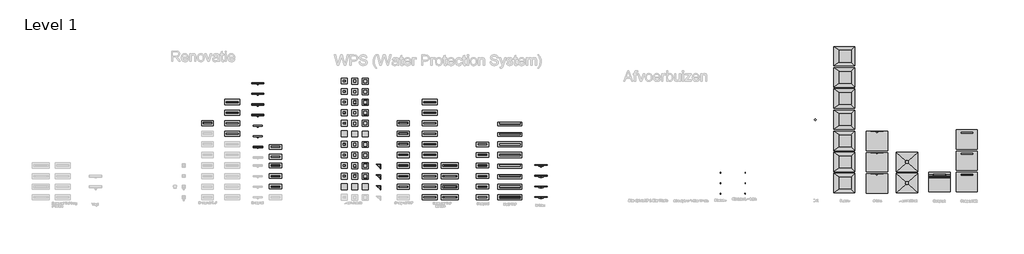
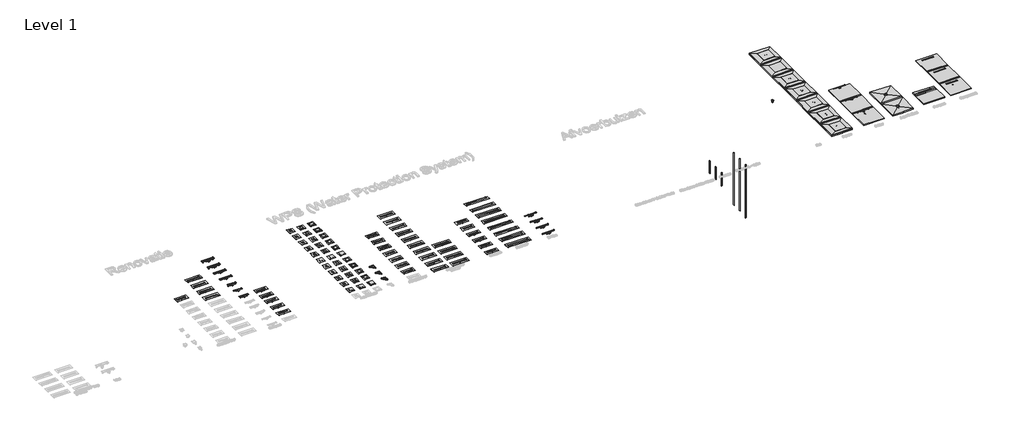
# One storey, part 6 of 23: 120 sanitary terminals, 8 coverings.
"""IFC4 building model written with IfcOpenShell, lengths in millimetres."""

from ifc_helpers import new_model, si_unit, origin, place, context, project, spatial, transform, mapped, element, save
from components import covering_949c216e, covering_52c8488e, sanitary_terminal_5b34698b, sanitary_terminal_c62dae5d, sanitary_terminal_9a77729b, sanitary_terminal_87b3114c, sanitary_terminal_e6825e24, sanitary_terminal_7cc5d28f, sanitary_terminal_fcf2dfa3, sanitary_terminal_6ee30efb, sanitary_terminal_1113593c, sanitary_terminal_65ee39c2, sanitary_terminal_e4e503c8, sanitary_terminal_38fbd002, sanitary_terminal_ca8cf7d3, sanitary_terminal_dbedebaa, sanitary_terminal_98deaa17, sanitary_terminal_0f77349a, sanitary_terminal_50c217ad, sanitary_terminal_e52f65bd, sanitary_terminal_b1b542f0, sanitary_terminal_1a364380, sanitary_terminal_83d6f62a, sanitary_terminal_4a5be464, sanitary_terminal_dddee02a, sanitary_terminal_49c4bee3, sanitary_terminal_3b9aff7f, sanitary_terminal_8a521ea7, black_glass_10x10_94a9755f, black_glass_15x15_4ec12fde, black_glass_20x20_2d4f7b62, compact_89b39318, compact_ff_9ca3e479, compact_ff_39878ad4, compact_ff_16e5568f, compact_ff_ca326670, compact_ff_tile_2c53a190, compact_ff_tile_d9a49791, compact_flange_697ba35e, compact_m2_07d69076, compact_taf_aa2868d5, compact_taf_a320cd3e, compact_taf_2342890d, compact_taf_wall_cdf960c3, compact_taf_wall_d19b2d83, compact_taf_wall_0f2e0b1c, compact_taf_wall_d03a32f8, compact_tile_2c210a84, compact_tile_8fcec66e, compact_wall_94ad205f, compact_wall_42add6d5, compact_wall_7a272a64, compact_wall_831ec387, m_line_c0a41354, m_line_9a3da5f7, m2_trap_body_7347115e, m2_trap_body_e95e259b, multi_taf_wall_horizontal_outlet_high_50mm_fefc41ae, multi_taf_wall_horizontal_outlet_low_40mm_08ca72b8, multi_taf_horizontal_outlet_low_40mm_1422f05b, multi_taf_horizontal_outlet_low_40mm_2f109a31, s_line_e55ddfc2, slim_tube_321f6302, tile_10x10_495e2d9a, tile_10x10_58bf98e1, tile_15x15_625d1f21, tile_15x15_8973f844, tile_20x20_1db265bf, tile_20x20_2fca3c0a

model = new_model("IFC4")

# Units and contexts
model_context = context("Model", 3, world=origin())
ifc_project = project(units=[si_unit("LENGTHUNIT", "METRE", prefix="MILLI")], contexts=[model_context])

# Site, building, storey
site = spatial("IfcSite", under=ifc_project)
building = spatial("IfcBuilding", under=site)
storey = spatial("IfcBuildingStorey", under=building, Name="Level 1", Elevation=0.0)

# Coverings
placement = place(None, origin())
covering_shape = covering_949c216e(model_context)
element("IfcCovering", 1, ObjectType="Z_DO_NOT_USE_NLRS_PF_52_UN_Extension Set_Easydrain : NLRS_PLF_52_UN_Easy Drain verlengset_Easydrain", at=placement, inside=storey, context=model_context, shape_type="MappedRepresentation", body=[
    mapped(covering_shape, transform((111217.5, 8300.0, 0.0), x_axis=(1.0, 0.0, 0.0), y_axis=(0.0, 1.0, 0.0), z_axis=(0.0, 0.0, 1.0))),
])
element("IfcCovering", 2, ObjectType="Z_DO_NOT_USE_NLRS_PF_52_UN_Extension Set_Easydrain : NLRS_PLF_52_UN_Easy Drain verlengset_Easydrain", at=placement, inside=storey, context=model_context, shape_type="MappedRepresentation", body=[
    mapped(covering_shape, transform((111217.5, 8900.0, 0.0), x_axis=(1.0, 0.0, 0.0), y_axis=(0.0, 1.0, 0.0), z_axis=(0.0, 0.0, 1.0))),
])
element("IfcCovering", 3, ObjectType="Z_DO_NOT_USE_NLRS_PF_52_UN_Extension Set_Easydrain : NLRS_PLF_52_UN_Easy Drain verlengset_Easydrain", at=placement, inside=storey, context=model_context, shape_type="MappedRepresentation", body=[
    mapped(covering_shape, transform((111217.5, 9500.0, 0.0), x_axis=(1.0, 0.0, 0.0), y_axis=(0.0, 1.0, 0.0), z_axis=(0.0, 0.0, 1.0))),
])
covering_2_shape = covering_52c8488e(model_context)
element("IfcCovering", 4, ObjectType="Z_DO_NOT_USE_NLRS_PF_52_UN_Extension Set_Easydrain : NLRS_PLF_52_UN_Easy Drain verlengset_Easydrain", at=placement, inside=storey, context=model_context, shape_type="MappedRepresentation", body=[
    mapped(covering_2_shape, transform((111217.5, 10100.0, 0.0), x_axis=(1.0, 0.0, 0.0), y_axis=(0.0, 1.0, 0.0), z_axis=(0.0, 0.0, 1.0))),
])
element("IfcCovering", 5, ObjectType="Z_DO_NOT_USE_NLRS_PF_52_UN_Extension Set_Easydrain : NLRS_PLF_52_UN_Easy Drain verlengset_Easydrain", at=placement, inside=storey, context=model_context, shape_type="MappedRepresentation", body=[
    mapped(covering_2_shape, transform((111217.5, 10700.0, 0.0), x_axis=(1.0, 0.0, 0.0), y_axis=(0.0, 1.0, 0.0), z_axis=(0.0, 0.0, 1.0))),
])
element("IfcCovering", 6, ObjectType="Z_DO_NOT_USE_NLRS_PF_52_UN_Extension Set_Easydrain : NLRS_PLF_52_UN_Easy Drain verlengset_Easydrain", at=placement, inside=storey, context=model_context, shape_type="MappedRepresentation", body=[
    mapped(covering_2_shape, transform((111217.5, 11300.0, 0.0), x_axis=(1.0, 0.0, 0.0), y_axis=(0.0, 1.0, 0.0), z_axis=(0.0, 0.0, 1.0))),
])
element("IfcCovering", 7, ObjectType="Z_DO_NOT_USE_NLRS_PF_52_UN_Extension Set_Easydrain : NLRS_PLF_52_UN_Easy Drain verlengset_Easydrain", at=placement, inside=storey, context=model_context, shape_type="MappedRepresentation", body=[
    mapped(covering_2_shape, transform((111217.5, 11900.0, 0.0), x_axis=(1.0, 0.0, 0.0), y_axis=(0.0, 1.0, 0.0), z_axis=(0.0, 0.0, 1.0))),
])
element("IfcCovering", 8, ObjectType="Z_DO_NOT_USE_NLRS_PF_52_UN_Extension Set_Easydrain : NLRS_PLF_52_UN_Easy Drain verlengset_Easydrain", at=placement, inside=storey, context=model_context, shape_type="MappedRepresentation", body=[
    mapped(covering_2_shape, transform((100117.5, 11900.0, 0.0), x_axis=(1.0, 0.0, 0.0), y_axis=(0.0, 1.0, 0.0), z_axis=(0.0, 0.0, 1.0))),
])

# Sanitary terminals
sanitary_terminal_shape = sanitary_terminal_5b34698b(model_context)
element("IfcSanitaryTerminal", 9, ObjectType="NLRS_PF_52_UN_Aqua Jewels Delta_in_uitloop_Easydrain : Aqua Jewels Delta zijuitloop hoog 50mm, zij-ingang 40mm", at=placement, inside=storey, context=model_context, shape_type="MappedRepresentation", body=[
    mapped(sanitary_terminal_shape, transform((110100.0, 8900.0, 0.0), x_axis=(1.0, 0.0, 0.0), y_axis=(0.0, 1.0, 0.0), z_axis=(0.0, 0.0, 1.0))),
])
sanitary_terminal_2_shape = sanitary_terminal_c62dae5d(model_context)
element("IfcSanitaryTerminal", 10, ObjectType="NLRS_PF_52_UN_Compact TAF Modulo Design_Easydrain : Compact TAF Modulo Design Z2", at=placement, inside=storey, context=model_context, shape_type="MappedRepresentation", body=[
    mapped(sanitary_terminal_2_shape, transform((113950.0, 7700.0, 0.0), x_axis=(1.0, 0.0, 0.0), y_axis=(0.0, 1.0, 0.0), z_axis=(0.0, 0.0, 1.0))),
])
sanitary_terminal_3_shape = sanitary_terminal_9a77729b(model_context)
element("IfcSanitaryTerminal", 11, ObjectType="NLRS_PF_52_UN_Compact TAF Modulo Design_Easydrain : Compact TAF Modulo Design Z4", at=placement, inside=storey, context=model_context, shape_type="MappedRepresentation", body=[
    mapped(sanitary_terminal_3_shape, transform((113950.0, 8300.0, 0.0), x_axis=(1.0, 0.0, 0.0), y_axis=(0.0, 1.0, 0.0), z_axis=(0.0, 0.0, 1.0))),
])
sanitary_terminal_4_shape = sanitary_terminal_87b3114c(model_context)
element("IfcSanitaryTerminal", 12, ObjectType="NLRS_PF_52_UN_Compact TAF Modulo_Easydrain : Compact TAF Modulo Classic", at=placement, inside=storey, context=model_context, shape_type="MappedRepresentation", body=[
    mapped(sanitary_terminal_4_shape, transform((112850.0, 7700.0, 0.0), x_axis=(1.0, 0.0, 0.0), y_axis=(0.0, 1.0, 0.0), z_axis=(0.0, 0.0, 1.0))),
])
element("IfcSanitaryTerminal", 13, ObjectType="NLRS_PF_52_UN_Compact TAF Modulo_Easydrain : Compact TAF Modulo Zero+ geborsteld RVS", at=placement, inside=storey, context=model_context, shape_type="MappedRepresentation", body=[
    mapped(sanitary_terminal_4_shape, transform((112850.0, 9500.0, 0.0), x_axis=(1.0, 0.0, 0.0), y_axis=(0.0, 1.0, 0.0), z_axis=(0.0, 0.0, 1.0))),
])
element("IfcSanitaryTerminal", 14, ObjectType="NLRS_PF_52_UN_Compact TAF Modulo_Easydrain : Compact TAF Modulo Zero+ verchroomd RVS", at=placement, inside=storey, context=model_context, shape_type="MappedRepresentation", body=[
    mapped(sanitary_terminal_4_shape, transform((112850.0, 10100.0, 0.0), x_axis=(1.0, 0.0, 0.0), y_axis=(0.0, 1.0, 0.0), z_axis=(0.0, 0.0, 1.0))),
])
sanitary_terminal_5_shape = sanitary_terminal_e6825e24(model_context)
element("IfcSanitaryTerminal", 15, ObjectType="NLRS_PF_52_UN_Compact TAF Modulo_Easydrain : Compact TAF Modulo Glas zwart glans", at=placement, inside=storey, context=model_context, shape_type="MappedRepresentation", body=[
    mapped(sanitary_terminal_5_shape, transform((112850.0, 8900.0, 0.0), x_axis=(1.0, 0.0, 0.0), y_axis=(0.0, 1.0, 0.0), z_axis=(0.0, 0.0, 1.0))),
])
element("IfcSanitaryTerminal", 16, ObjectType="NLRS_PF_52_UN_Compact TAF Modulo_Easydrain : Compact TAF Modulo Glas wit glans", at=placement, inside=storey, context=model_context, shape_type="MappedRepresentation", body=[
    mapped(sanitary_terminal_5_shape, transform((112850.0, 8300.0, 0.0), x_axis=(1.0, 0.0, 0.0), y_axis=(0.0, 1.0, 0.0), z_axis=(0.0, 0.0, 1.0))),
])
sanitary_terminal_6_shape = sanitary_terminal_7cc5d28f(model_context)
element("IfcSanitaryTerminal", 17, ObjectType="NLRS_PF_52_UN_Multi TAF in_uitloop_Easydrain : Multi TAF zijuitloop hoog 50mm, zij-ingang 40mm", at=placement, inside=storey, context=model_context, shape_type="MappedRepresentation", body=[
    mapped(sanitary_terminal_6_shape, transform((117150.0, 10100.0, 0.0), x_axis=(1.0, 0.0, 0.0), y_axis=(0.0, 1.0, 0.0), z_axis=(0.0, 0.0, 1.0))),
])
sanitary_terminal_7_shape = sanitary_terminal_fcf2dfa3(model_context)
element("IfcSanitaryTerminal", 18, ObjectType="NLRS_PF_52_UN_Multi TAF Wall in_uitloop_Easydrain : Multi TAF Wall zijuitloop hoog 50mm, zij-ingang 40mm", at=placement, inside=storey, context=model_context, shape_type="MappedRepresentation", body=[
    mapped(sanitary_terminal_7_shape, transform((117150.0, 11300.0, 0.0), x_axis=(1.0, 0.0, 0.0), y_axis=(0.0, 1.0, 0.0), z_axis=(0.0, 0.0, 1.0))),
])
sanitary_terminal_8_shape = sanitary_terminal_6ee30efb(model_context)
element("IfcSanitaryTerminal", 19, ObjectType="NLRS_PF_52_UN_Showerboard Aqua Brilliant_Easydrain : Aqua Brilliant onderuitloop 50mm", at=placement, inside=storey, context=model_context, shape_type="MappedRepresentation", body=[
    mapped(sanitary_terminal_8_shape, transform((140027.0859504, 9700.0, 0.0), x_axis=(1.0, 0.0, 0.0), y_axis=(0.0, 1.0, 0.0), z_axis=(0.0, 0.0, 1.0))),
])
sanitary_terminal_9_shape = sanitary_terminal_1113593c(model_context)
element("IfcSanitaryTerminal", 20, ObjectType="NLRS_PF_52_UN_Showerboard Aqua Brilliant_Easydrain : Aqua Brilliant zijuitloop laag 50mm", at=placement, inside=storey, context=model_context, shape_type="MappedRepresentation", body=[
    mapped(sanitary_terminal_9_shape, transform((140027.0859504, 8500.0, 0.0), x_axis=(1.0, 0.0, 0.0), y_axis=(0.0, 1.0, 0.0), z_axis=(0.0, 0.0, 1.0))),
])
sanitary_terminal_10_shape = sanitary_terminal_65ee39c2(model_context)
element("IfcSanitaryTerminal", 21, ObjectType="NLRS_PF_52_UN_Showerboard Compact M2_Easydrain : Compact M2 met M2 sifonhuis onderuitloop", at=placement, inside=storey, context=model_context, shape_type="MappedRepresentation", body=[
    mapped(sanitary_terminal_10_shape, transform((143427.0859504, 11382.7, 0.0), x_axis=(1.0, 0.0, 0.0), y_axis=(0.0, 1.0, 0.0), z_axis=(0.0, 0.0, 1.0))),
])
element("IfcSanitaryTerminal", 22, ObjectType="NLRS_PF_52_UN_Showerboard Compact M2_Easydrain : Compact M2 met M2 ondiep sifonhuis", at=placement, inside=storey, context=model_context, shape_type="MappedRepresentation", body=[
    mapped(sanitary_terminal_10_shape, transform((143427.0859504, 10182.7, 0.0), x_axis=(1.0, 0.0, 0.0), y_axis=(0.0, 1.0, 0.0), z_axis=(0.0, 0.0, 1.0))),
])
sanitary_terminal_11_shape = sanitary_terminal_e4e503c8(model_context)
element("IfcSanitaryTerminal", 23, ObjectType="NLRS_PF_52_UN_Showerboard S-Line_Easydrain : S-Line met M2 sifonhuis onderuitloop", at=placement, inside=storey, context=model_context, shape_type="MappedRepresentation", body=[
    mapped(sanitary_terminal_11_shape, transform((138327.0859504, 11400.0, 0.0), x_axis=(1.0, 0.0, 0.0), y_axis=(0.0, 1.0, 0.0), z_axis=(0.0, 0.0, 1.0))),
])
element("IfcSanitaryTerminal", 24, ObjectType="NLRS_PF_52_UN_Showerboard S-Line_Easydrain : S-Line met M2 ondiep sifonhuis", at=placement, inside=storey, context=model_context, shape_type="MappedRepresentation", body=[
    mapped(sanitary_terminal_11_shape, transform((138327.0859504, 10200.0, 0.0), x_axis=(1.0, 0.0, 0.0), y_axis=(0.0, 1.0, 0.0), z_axis=(0.0, 0.0, 1.0))),
])
sanitary_terminal_12_shape = sanitary_terminal_38fbd002(model_context)
element("IfcSanitaryTerminal", 25, ObjectType="NLRS_PF_52_UN_Showerboard SQUARE_in_uitloop_Easydrain : Square zijuitloop hoog 50mm, zij-ingang 40mm", at=placement, inside=storey, context=model_context, shape_type="MappedRepresentation", body=[
    mapped(sanitary_terminal_12_shape, transform((136527.0859504, 13300.0, 0.0), x_axis=(1.0, 0.0, 0.0), y_axis=(0.0, 1.0, 0.0), z_axis=(0.0, 0.0, 1.0))),
])
element("IfcSanitaryTerminal", 26, ObjectType="NLRS_PF_52_UN_Showerboard SQUARE_in_uitloop_Easydrain : Square onderuitloop 50mm, zij-ingang 40mm", at=placement, inside=storey, context=model_context, shape_type="MappedRepresentation", body=[
    mapped(sanitary_terminal_12_shape, transform((136527.0859504, 14500.0, 0.0), x_axis=(1.0, 0.0, 0.0), y_axis=(0.0, 1.0, 0.0), z_axis=(0.0, 0.0, 1.0))),
])
element("IfcSanitaryTerminal", 27, ObjectType="NLRS_PF_52_UN_Showerboard SQUARE_in_uitloop_Easydrain : Square onderuitloop 50mm, zij-ingang 50mm", at=placement, inside=storey, context=model_context, shape_type="MappedRepresentation", body=[
    mapped(sanitary_terminal_12_shape, transform((136527.0859504, 15700.0, 0.0), x_axis=(1.0, 0.0, 0.0), y_axis=(0.0, 1.0, 0.0), z_axis=(0.0, 0.0, 1.0))),
])
sanitary_terminal_13_shape = sanitary_terminal_ca8cf7d3(model_context)
element("IfcSanitaryTerminal", 28, ObjectType="NLRS_PF_52_UN_Showerboard SQUARE_uitloop_Easydrain : Square Zijuitloop laag 50 mm", at=placement, inside=storey, context=model_context, shape_type="MappedRepresentation", body=[
    mapped(sanitary_terminal_13_shape, transform((136527.0859504, 9700.0, 0.0), x_axis=(1.0, 0.0, 0.0), y_axis=(0.0, 1.0, 0.0), z_axis=(0.0, 0.0, 1.0))),
])
sanitary_terminal_14_shape = sanitary_terminal_dbedebaa(model_context)
element("IfcSanitaryTerminal", 29, ObjectType="NLRS_PF_52_UN_Showerboard SQUARE_uitloop_Easydrain : Square Zijuitloop laag 40 mm", at=placement, inside=storey, context=model_context, shape_type="MappedRepresentation", body=[
    mapped(sanitary_terminal_14_shape, transform((136527.0859504, 8500.0, 0.0), x_axis=(1.0, 0.0, 0.0), y_axis=(0.0, 1.0, 0.0), z_axis=(0.0, 0.0, 1.0))),
])
element("IfcSanitaryTerminal", 30, ObjectType="NLRS_PF_52_UN_Showerboard SQUARE_uitloop_Easydrain : Square Zijuitloop hoog 50 mm", at=placement, inside=storey, context=model_context, shape_type="MappedRepresentation", body=[
    mapped(sanitary_terminal_13_shape, transform((136527.0859504, 10900.0, 0.0), x_axis=(1.0, 0.0, 0.0), y_axis=(0.0, 1.0, 0.0), z_axis=(0.0, 0.0, 1.0))),
])
sanitary_terminal_15_shape = sanitary_terminal_98deaa17(model_context)
element("IfcSanitaryTerminal", 31, ObjectType="NLRS_PF_52_UN_Showerboard SQUARE_uitloop_Easydrain : Square Onderuitloop 50 mm", at=placement, inside=storey, context=model_context, shape_type="MappedRepresentation", body=[
    mapped(sanitary_terminal_15_shape, transform((136527.0859504, 12100.0, 0.0), x_axis=(1.0, 0.0, 0.0), y_axis=(0.0, 1.0, 0.0), z_axis=(0.0, 0.0, 1.0))),
])
sanitary_terminal_16_shape = sanitary_terminal_0f77349a(model_context)
element("IfcSanitaryTerminal", 32, ObjectType="Z_DO_NOT_USE_NLRS_PF_52_UN_Slim Tube drain pipe lengte 3,2m_Easydrain : Slim Tube - lengte 3,2 m", at=placement, inside=storey, context=model_context, shape_type="MappedRepresentation", body=[
    mapped(sanitary_terminal_16_shape, transform((130854.1823151, 7900.0, -33.0), x_axis=(1.0, 0.0, 0.0), y_axis=(0.0, 1.0, 0.0), z_axis=(0.0, 0.0, 1.0))),
])
element("IfcSanitaryTerminal", 33, ObjectType="Z_DO_NOT_USE_NLRS_PF_52_UN_Slim Tube drain pipe lengte 3,2m_Easydrain : Slim Tube - lengte 3,2 m", at=placement, inside=storey, context=model_context, shape_type="MappedRepresentation", body=[
    mapped(sanitary_terminal_16_shape, transform((130854.1823151, 8500.0, -33.0), x_axis=(1.0, 0.0, 0.0), y_axis=(0.0, 1.0, 0.0), z_axis=(0.0, 0.0, 1.0))),
])
element("IfcSanitaryTerminal", 34, ObjectType="Z_DO_NOT_USE_NLRS_PF_52_UN_Slim Tube drain pipe lengte 3,2m_Easydrain : Slim Tube - lengte 3,2 m", at=placement, inside=storey, context=model_context, shape_type="MappedRepresentation", body=[
    mapped(sanitary_terminal_16_shape, transform((130854.1823151, 9100.0, -33.0), x_axis=(1.0, 0.0, 0.0), y_axis=(0.0, 1.0, 0.0), z_axis=(0.0, 0.0, 1.0))),
])
sanitary_terminal_17_shape = sanitary_terminal_50c217ad(model_context)
element("IfcSanitaryTerminal", 35, ObjectType="NLRS_PF_52_UN_Compact TAF Modulo Design_Easydrain : Compact TAF Modulo Design Z2", at=placement, inside=storey, context=model_context, shape_type="MappedRepresentation", body=[
    mapped(sanitary_terminal_17_shape, transform((113950.0, 8900.0, 0.0), x_axis=(1.0, 0.0, 0.0), y_axis=(0.0, 1.0, 0.0), z_axis=(0.0, 0.0, 1.0))),
])
sanitary_terminal_18_shape = sanitary_terminal_e52f65bd(model_context)
element("IfcSanitaryTerminal", 36, ObjectType="NLRS_PF_52_UN_Compact TAF Modulo Design_Easydrain : Compact TAF Modulo Design Z4", at=placement, inside=storey, context=model_context, shape_type="MappedRepresentation", body=[
    mapped(sanitary_terminal_18_shape, transform((113950.0, 9500.0, 0.0), x_axis=(1.0, 0.0, 0.0), y_axis=(0.0, 1.0, 0.0), z_axis=(0.0, 0.0, 1.0))),
])
sanitary_terminal_19_shape = sanitary_terminal_b1b542f0(model_context)
element("IfcSanitaryTerminal", 37, ObjectType="NLRS_PF_52_UN_Compact TAF Modulo_Easydrain : Compact TAF Modulo Classic", at=placement, inside=storey, context=model_context, shape_type="MappedRepresentation", body=[
    mapped(sanitary_terminal_19_shape, transform((112850.0, 10700.0, 0.0), x_axis=(1.0, 0.0, 0.0), y_axis=(0.0, 1.0, 0.0), z_axis=(0.0, 0.0, 1.0))),
])
sanitary_terminal_20_shape = sanitary_terminal_1a364380(model_context)
element("IfcSanitaryTerminal", 38, ObjectType="NLRS_PF_52_UN_Compact TAF Modulo_Easydrain : Compact TAF Modulo Glas wit glans", at=placement, inside=storey, context=model_context, shape_type="MappedRepresentation", body=[
    mapped(sanitary_terminal_20_shape, transform((112850.0, 11300.0, 0.0), x_axis=(1.0, 0.0, 0.0), y_axis=(0.0, 1.0, 0.0), z_axis=(0.0, 0.0, 1.0))),
])
element("IfcSanitaryTerminal", 39, ObjectType="NLRS_PF_52_UN_Compact TAF Modulo_Easydrain : Compact TAF Modulo Glas wit glans", at=placement, inside=storey, context=model_context, shape_type="MappedRepresentation", body=[
    mapped(sanitary_terminal_20_shape, transform((101650.0, 11300.0, 0.0), x_axis=(1.0, 0.0, 0.0), y_axis=(0.0, 1.0, 0.0), z_axis=(0.0, 0.0, 1.0))),
])
element("IfcSanitaryTerminal", 40, ObjectType="NLRS_PF_52_UN_Compact TAF Modulo_Easydrain : Compact TAF Modulo Glas zwart glans", at=placement, inside=storey, context=model_context, shape_type="MappedRepresentation", body=[
    mapped(sanitary_terminal_20_shape, transform((112850.0, 11900.0, 0.0), x_axis=(1.0, 0.0, 0.0), y_axis=(0.0, 1.0, 0.0), z_axis=(0.0, 0.0, 1.0))),
])
element("IfcSanitaryTerminal", 41, ObjectType="NLRS_PF_52_UN_Compact TAF Modulo_Easydrain : Compact TAF Modulo Glas zwart glans", at=placement, inside=storey, context=model_context, shape_type="MappedRepresentation", body=[
    mapped(sanitary_terminal_20_shape, transform((101650.0, 11900.0, 0.0), x_axis=(1.0, 0.0, 0.0), y_axis=(0.0, 1.0, 0.0), z_axis=(0.0, 0.0, 1.0))),
])
element("IfcSanitaryTerminal", 42, ObjectType="NLRS_PF_52_UN_Compact TAF Modulo_Easydrain : Compact TAF Modulo Zero+ geborsteld RVS", at=placement, inside=storey, context=model_context, shape_type="MappedRepresentation", body=[
    mapped(sanitary_terminal_19_shape, transform((112850.0, 12500.0, 0.0), x_axis=(1.0, 0.0, 0.0), y_axis=(0.0, 1.0, 0.0), z_axis=(0.0, 0.0, 1.0))),
])
element("IfcSanitaryTerminal", 43, ObjectType="NLRS_PF_52_UN_Compact TAF Modulo_Easydrain : Compact TAF Modulo Zero+ geborsteld RVS", at=placement, inside=storey, context=model_context, shape_type="MappedRepresentation", body=[
    mapped(sanitary_terminal_19_shape, transform((101650.0, 12500.0, 0.0), x_axis=(1.0, 0.0, 0.0), y_axis=(0.0, 1.0, 0.0), z_axis=(0.0, 0.0, 1.0))),
])
element("IfcSanitaryTerminal", 44, ObjectType="NLRS_PF_52_UN_Compact TAF Modulo_Easydrain : Compact TAF Modulo Zero+ verchroomd RVS", at=placement, inside=storey, context=model_context, shape_type="MappedRepresentation", body=[
    mapped(sanitary_terminal_19_shape, transform((112850.0, 13100.0, 0.0), x_axis=(1.0, 0.0, 0.0), y_axis=(0.0, 1.0, 0.0), z_axis=(0.0, 0.0, 1.0))),
])
element("IfcSanitaryTerminal", 45, ObjectType="NLRS_PF_52_UN_Compact TAF Modulo_Easydrain : Compact TAF Modulo Zero+ verchroomd RVS", at=placement, inside=storey, context=model_context, shape_type="MappedRepresentation", body=[
    mapped(sanitary_terminal_19_shape, transform((101650.0, 13100.0, 0.0), x_axis=(1.0, 0.0, 0.0), y_axis=(0.0, 1.0, 0.0), z_axis=(0.0, 0.0, 1.0))),
])
sanitary_terminal_21_shape = sanitary_terminal_83d6f62a(model_context)
element("IfcSanitaryTerminal", 46, ObjectType="NLRS_PF_52_UN_Multi TAF in_uitloop_Easydrain : Multi TAF zijuitloop hoog 50mm, zij-ingang 40mm", at=placement, inside=storey, context=model_context, shape_type="MappedRepresentation", body=[
    mapped(sanitary_terminal_21_shape, transform((117150.0, 10700.0, 0.0), x_axis=(1.0, 0.0, 0.0), y_axis=(0.0, 1.0, 0.0), z_axis=(0.0, 0.0, 1.0))),
])
sanitary_terminal_22_shape = sanitary_terminal_4a5be464(model_context)
element("IfcSanitaryTerminal", 47, ObjectType="NLRS_PF_52_UN_Multi TAF Wall in_uitloop_Easydrain : Multi TAF Wall zijuitloop hoog 50mm, zij-ingang 40mm", at=placement, inside=storey, context=model_context, shape_type="MappedRepresentation", body=[
    mapped(sanitary_terminal_22_shape, transform((117150.0, 11900.0, 0.0), x_axis=(1.0, 0.0, 0.0), y_axis=(0.0, 1.0, 0.0), z_axis=(0.0, 0.0, 1.0))),
])
sanitary_terminal_23_shape = sanitary_terminal_dddee02a(model_context)
element("IfcSanitaryTerminal", 48, ObjectType="NLRS_PF_52_UN_Aqua Jewels Delta_in_uitloop_Easydrain : Aqua Jewels Delta zijuitloop hoog 50mm, zij-ingang 40mm", at=placement, inside=storey, context=model_context, shape_type="MappedRepresentation", body=[
    mapped(sanitary_terminal_23_shape, transform((110100.0, 9500.0, 0.0), x_axis=(1.0, 0.0, 0.0), y_axis=(0.0, 1.0, 0.0), z_axis=(0.0, 0.0, 1.0))),
])
element("IfcSanitaryTerminal", 49, ObjectType="NLRS_PF_52_UN_Aqua Jewels Delta_uitloop_Easydrain : Aqua Jewels Delta horizontal outlet low 40mm", at=placement, inside=storey, context=model_context, shape_type="MappedRepresentation", body=[
    mapped(sanitary_terminal_23_shape, transform((110100.0, 8300.0, 0.0), x_axis=(1.0, 0.0, 0.0), y_axis=(0.0, 1.0, 0.0), z_axis=(0.0, 0.0, 1.0))),
])
sanitary_terminal_24_shape = sanitary_terminal_49c4bee3(model_context)
element("IfcSanitaryTerminal", 50, ObjectType="Z_DO_NOT_USE_NLRS_PF_52_UN_Multi sifon uitloop_Easydrain : onderuitloop 50mm", at=placement, inside=storey, context=model_context, shape_type="MappedRepresentation", body=[
    mapped(sanitary_terminal_24_shape, transform((134827.0859504, 12100.0, -9.0), x_axis=(1.0, 0.0, 0.0), y_axis=(0.0, 1.0, 0.0), z_axis=(0.0, 0.0, 1.0))),
])
element("IfcSanitaryTerminal", 51, ObjectType="Z_DO_NOT_USE_NLRS_PF_52_UN_Multi sifon uitloop_Easydrain : onderuitloop 50mm", at=placement, inside=storey, context=model_context, shape_type="MappedRepresentation", body=[
    mapped(sanitary_terminal_24_shape, transform((136527.0859504, 12100.0, -9.0), x_axis=(1.0, 0.0, 0.0), y_axis=(0.0, 1.0, 0.0), z_axis=(0.0, 0.0, 1.0))),
])
sanitary_terminal_25_shape = sanitary_terminal_3b9aff7f(model_context)
element("IfcSanitaryTerminal", 52, ObjectType="Z_DO_NOT_USE_NLRS_PF_52_UN_Slim Tube outgoing facing down_Easydrain : Slim Tube outgoing facing down", at=placement, inside=storey, context=model_context, shape_type="MappedRepresentation", body=[
    mapped(sanitary_terminal_25_shape, transform((129454.1823151, 7900.0, 0.0), x_axis=(1.0, 0.0, 0.0), y_axis=(0.0, 1.0, 0.0), z_axis=(0.0, 0.0, 1.0))),
])
sanitary_terminal_26_shape = sanitary_terminal_8a521ea7(model_context)
element("IfcSanitaryTerminal", 53, ObjectType="Z_DO_NOT_USE_NLRS_PF_52_UN_Slim Tube outgoing facing down_Easydrain : Slim Tube outgoing facing down", at=placement, inside=storey, context=model_context, shape_type="MappedRepresentation", body=[
    mapped(sanitary_terminal_26_shape, transform((130854.1823151, 7900.0, 0.0), x_axis=(1.0, 0.0, 0.0), y_axis=(0.0, 1.0, 0.0), z_axis=(0.0, 0.0, 1.0))),
])
black_glass_10x10_shape = black_glass_10x10_94a9755f(model_context)
element("IfcSanitaryTerminal", 54, ObjectType="Z_DO_NOT_USE_NLRS_PF_52_UN_Aqua Jewels Quattro Complete_Easydrain : Black Glass 10x10", at=placement, inside=storey, context=model_context, shape_type="MappedRepresentation", body=[
    mapped(black_glass_10x10_shape, transform((108100.0, 8900.0, 0.0), x_axis=(1.0, 0.0, 0.0), y_axis=(0.0, 1.0, 0.0), z_axis=(0.0, 0.0, 1.0))),
])
element("IfcSanitaryTerminal", 55, ObjectType="Z_DO_NOT_USE_NLRS_PF_52_UN_Aqua Jewels Quattro Complete_Easydrain : Black Glass 10x10", at=placement, inside=storey, context=model_context, shape_type="MappedRepresentation", body=[
    mapped(black_glass_10x10_shape, transform((108100.0, 11900.0, 0.0), x_axis=(1.0, 0.0, 0.0), y_axis=(0.0, 1.0, 0.0), z_axis=(0.0, 0.0, 1.0))),
])
black_glass_15x15_shape = black_glass_15x15_4ec12fde(model_context)
element("IfcSanitaryTerminal", 56, ObjectType="Z_DO_NOT_USE_NLRS_PF_52_UN_Aqua Jewels Quattro Complete_Easydrain : Black Glass 15x15", at=placement, inside=storey, context=model_context, shape_type="MappedRepresentation", body=[
    mapped(black_glass_15x15_shape, transform((108700.0, 8900.0, 0.0), x_axis=(1.0, 0.0, 0.0), y_axis=(0.0, 1.0, 0.0), z_axis=(0.0, 0.0, 1.0))),
])
element("IfcSanitaryTerminal", 57, ObjectType="Z_DO_NOT_USE_NLRS_PF_52_UN_Aqua Jewels Quattro Complete_Easydrain : Black Glass 15x15", at=placement, inside=storey, context=model_context, shape_type="MappedRepresentation", body=[
    mapped(black_glass_15x15_shape, transform((108700.0, 11900.0, 0.0), x_axis=(1.0, 0.0, 0.0), y_axis=(0.0, 1.0, 0.0), z_axis=(0.0, 0.0, 1.0))),
])
black_glass_20x20_shape = black_glass_20x20_2d4f7b62(model_context)
element("IfcSanitaryTerminal", 58, ObjectType="Z_DO_NOT_USE_NLRS_PF_52_UN_Aqua Jewels Quattro Complete_Easydrain : Black Glass 20x20", at=placement, inside=storey, context=model_context, shape_type="MappedRepresentation", body=[
    mapped(black_glass_20x20_shape, transform((109300.0, 8900.0, 0.0), x_axis=(1.0, 0.0, 0.0), y_axis=(0.0, 1.0, 0.0), z_axis=(0.0, 0.0, 1.0))),
])
element("IfcSanitaryTerminal", 59, ObjectType="Z_DO_NOT_USE_NLRS_PF_52_UN_Aqua Jewels Quattro Complete_Easydrain : Black Glass 20x20", at=placement, inside=storey, context=model_context, shape_type="MappedRepresentation", body=[
    mapped(black_glass_20x20_shape, transform((109300.0, 11900.0, 0.0), x_axis=(1.0, 0.0, 0.0), y_axis=(0.0, 1.0, 0.0), z_axis=(0.0, 0.0, 1.0))),
])
compact_shape = compact_89b39318(model_context)
element("IfcSanitaryTerminal", 60, ObjectType="NLRS_PF_52_UN_Showerboard Compact_Easydrain : Compact", at=placement, inside=storey, context=model_context, shape_type="MappedRepresentation", body=[
    mapped(compact_shape, transform((141791.8319145, 8970.0, 0.0), x_axis=(1.0, 0.0, 0.0), y_axis=(0.0, 1.0, 0.0), z_axis=(0.0, 0.0, 1.0))),
])
compact_ff_shape = compact_ff_9ca3e479(model_context)
element("IfcSanitaryTerminal", 61, ObjectType="NLRS_PF_52_UN_Compact_Easydrain : Compact FF", at=placement, inside=storey, context=model_context, shape_type="MappedRepresentation", body=[
    mapped(compact_ff_shape, transform((115950.0, 7700.0, 0.0), x_axis=(1.0, 0.0, 0.0), y_axis=(0.0, 1.0, 0.0), z_axis=(0.0, 0.0, 1.0))),
])
compact_ff_2_shape = compact_ff_39878ad4(model_context)
element("IfcSanitaryTerminal", 62, ObjectType="NLRS_PF_52_UN_Compact_Easydrain : Compact FF", at=placement, inside=storey, context=model_context, shape_type="MappedRepresentation", body=[
    mapped(compact_ff_2_shape, transform((115950.0, 8300.0, 0.0), x_axis=(1.0, 0.0, 0.0), y_axis=(0.0, 1.0, 0.0), z_axis=(0.0, 0.0, 1.0))),
])
element("IfcSanitaryTerminal", 63, ObjectType="NLRS_PF_52_UN_Compact_Easydrain : Compact FF", at=placement, inside=storey, context=model_context, shape_type="MappedRepresentation", body=[
    mapped(compact_ff_2_shape, transform((104199.785592, 8300.0, 0.0), x_axis=(1.0, 0.0, 0.0), y_axis=(0.0, 1.0, 0.0), z_axis=(0.0, 0.0, 1.0))),
])
compact_ff_3_shape = compact_ff_16e5568f(model_context)
element("IfcSanitaryTerminal", 64, ObjectType="NLRS_PF_52_UN_Compact_Easydrain : Compact FF", at=placement, inside=storey, context=model_context, shape_type="MappedRepresentation", body=[
    mapped(compact_ff_3_shape, transform((115950.0, 8900.0, 0.0), x_axis=(1.0, 0.0, 0.0), y_axis=(0.0, 1.0, 0.0), z_axis=(0.0, 0.0, 1.0))),
])
element("IfcSanitaryTerminal", 65, ObjectType="NLRS_PF_52_UN_Compact_Easydrain : Compact FF", at=placement, inside=storey, context=model_context, shape_type="MappedRepresentation", body=[
    mapped(compact_ff_3_shape, transform((104199.785592, 8900.0, 0.0), x_axis=(1.0, 0.0, 0.0), y_axis=(0.0, 1.0, 0.0), z_axis=(0.0, 0.0, 1.0))),
])
compact_ff_4_shape = compact_ff_ca326670(model_context)
element("IfcSanitaryTerminal", 66, ObjectType="NLRS_PF_52_UN_Compact_Easydrain : Compact FF", at=placement, inside=storey, context=model_context, shape_type="MappedRepresentation", body=[
    mapped(compact_ff_4_shape, transform((115950.0, 9500.0, 0.0), x_axis=(1.0, 0.0, 0.0), y_axis=(0.0, 1.0, 0.0), z_axis=(0.0, 0.0, 1.0))),
])
element("IfcSanitaryTerminal", 67, ObjectType="NLRS_PF_52_UN_Compact_Easydrain : Compact FF", at=placement, inside=storey, context=model_context, shape_type="MappedRepresentation", body=[
    mapped(compact_ff_4_shape, transform((104199.785592, 9500.0, 0.0), x_axis=(1.0, 0.0, 0.0), y_axis=(0.0, 1.0, 0.0), z_axis=(0.0, 0.0, 1.0))),
])
compact_ff_tile_shape = compact_ff_tile_2c53a190(model_context)
element("IfcSanitaryTerminal", 68, ObjectType="NLRS_PF_52_UN_Compact Tile_Easydrain : Compact FF Tile", at=placement, inside=storey, context=model_context, shape_type="MappedRepresentation", body=[
    mapped(compact_ff_tile_shape, transform((115950.0, 10700.0, 0.0), x_axis=(1.0, 0.0, 0.0), y_axis=(0.0, 1.0, 0.0), z_axis=(0.0, 0.0, 1.0))),
])
element("IfcSanitaryTerminal", 69, ObjectType="NLRS_PF_52_UN_Compact Tile_Easydrain : Compact FF Tile", at=placement, inside=storey, context=model_context, shape_type="MappedRepresentation", body=[
    mapped(compact_ff_tile_shape, transform((104199.785592, 10560.0, 0.0), x_axis=(1.0, 0.0, 0.0), y_axis=(0.0, 1.0, 0.0), z_axis=(0.0, 0.0, 1.0))),
])
compact_ff_tile_2_shape = compact_ff_tile_d9a49791(model_context)
element("IfcSanitaryTerminal", 70, ObjectType="NLRS_PF_52_UN_Compact Tile_Easydrain : Compact FF Tile", at=placement, inside=storey, context=model_context, shape_type="MappedRepresentation", body=[
    mapped(compact_ff_tile_2_shape, transform((115950.0, 10100.0, 0.0), x_axis=(1.0, 0.0, 0.0), y_axis=(0.0, 1.0, 0.0), z_axis=(0.0, 0.0, 1.0))),
])
element("IfcSanitaryTerminal", 71, ObjectType="NLRS_PF_52_UN_Compact Tile_Easydrain : Compact FF Tile", at=placement, inside=storey, context=model_context, shape_type="MappedRepresentation", body=[
    mapped(compact_ff_tile_2_shape, transform((104199.785592, 10000.0, 0.0), x_axis=(1.0, 0.0, 0.0), y_axis=(0.0, 1.0, 0.0), z_axis=(0.0, 0.0, 1.0))),
])
compact_flange_shape = compact_flange_697ba35e(model_context)
element("IfcSanitaryTerminal", 72, ObjectType="NLRS_PF_52_UN_Compact_Easydrain : Compact Flange", at=placement, inside=storey, context=model_context, shape_type="MappedRepresentation", body=[
    mapped(compact_flange_shape, transform((103199.785592, 10560.0, 0.0), x_axis=(1.0, 0.0, 0.0), y_axis=(0.0, 1.0, 0.0), z_axis=(0.0, 0.0, 1.0))),
])
compact_m2_shape = compact_m2_07d69076(model_context)
element("IfcSanitaryTerminal", 73, ObjectType="NLRS_PF_52_UN_Showerboard Compact M2_Easydrain : Compact M2", at=placement, inside=storey, context=model_context, shape_type="MappedRepresentation", body=[
    mapped(compact_m2_shape, transform((143427.0859504, 8982.7, 0.0), x_axis=(1.0, 0.0, 0.0), y_axis=(0.0, 1.0, 0.0), z_axis=(0.0, 0.0, 1.0))),
])
compact_taf_shape = compact_taf_aa2868d5(model_context)
element("IfcSanitaryTerminal", 74, ObjectType="NLRS_PF_52_UN_Compact TAF_Easydrain : Compact TAF", at=placement, inside=storey, context=model_context, shape_type="MappedRepresentation", body=[
    mapped(compact_taf_shape, transform((111450.0, 8300.0, 0.0), x_axis=(1.0, 0.0, 0.0), y_axis=(0.0, 1.0, 0.0), z_axis=(0.0, 0.0, 1.0))),
])
compact_taf_2_shape = compact_taf_a320cd3e(model_context)
element("IfcSanitaryTerminal", 75, ObjectType="NLRS_PF_52_UN_Compact TAF_Easydrain : Compact TAF", at=placement, inside=storey, context=model_context, shape_type="MappedRepresentation", body=[
    mapped(compact_taf_2_shape, transform((111450.0, 8900.0, 0.0), x_axis=(1.0, 0.0, 0.0), y_axis=(0.0, 1.0, 0.0), z_axis=(0.0, 0.0, 1.0))),
])
compact_taf_3_shape = compact_taf_2342890d(model_context)
element("IfcSanitaryTerminal", 76, ObjectType="NLRS_PF_52_UN_Compact TAF_Easydrain : Compact TAF", at=placement, inside=storey, context=model_context, shape_type="MappedRepresentation", body=[
    mapped(compact_taf_3_shape, transform((111450.0, 9500.0, 0.0), x_axis=(1.0, 0.0, 0.0), y_axis=(0.0, 1.0, 0.0), z_axis=(0.0, 0.0, 1.0))),
])
compact_taf_wall_shape = compact_taf_wall_cdf960c3(model_context)
element("IfcSanitaryTerminal", 77, ObjectType="NLRS_PF_52_UN_Compact TAF_Easydrain : Compact TAF Wall", at=placement, inside=storey, context=model_context, shape_type="MappedRepresentation", body=[
    mapped(compact_taf_wall_shape, transform((111450.0, 10100.0, 0.0), x_axis=(1.0, 0.0, 0.0), y_axis=(0.0, 1.0, 0.0), z_axis=(0.0, 0.0, 1.0))),
])
compact_taf_wall_2_shape = compact_taf_wall_d19b2d83(model_context)
element("IfcSanitaryTerminal", 78, ObjectType="NLRS_PF_52_UN_Compact TAF_Easydrain : Compact TAF Wall", at=placement, inside=storey, context=model_context, shape_type="MappedRepresentation", body=[
    mapped(compact_taf_wall_2_shape, transform((111450.0, 10700.0, 0.0), x_axis=(1.0, 0.0, 0.0), y_axis=(0.0, 1.0, 0.0), z_axis=(0.0, 0.0, 1.0))),
])
compact_taf_wall_3_shape = compact_taf_wall_0f2e0b1c(model_context)
element("IfcSanitaryTerminal", 79, ObjectType="NLRS_PF_52_UN_Compact TAF_Easydrain : Compact TAF Wall", at=placement, inside=storey, context=model_context, shape_type="MappedRepresentation", body=[
    mapped(compact_taf_wall_3_shape, transform((111450.0, 11300.0, 0.0), x_axis=(1.0, 0.0, 0.0), y_axis=(0.0, 1.0, 0.0), z_axis=(0.0, 0.0, 1.0))),
])
compact_taf_wall_4_shape = compact_taf_wall_d03a32f8(model_context)
element("IfcSanitaryTerminal", 80, ObjectType="NLRS_PF_52_UN_Compact TAF_Easydrain : Compact TAF Wall", at=placement, inside=storey, context=model_context, shape_type="MappedRepresentation", body=[
    mapped(compact_taf_wall_4_shape, transform((111450.0, 11900.0, 0.0), x_axis=(1.0, 0.0, 0.0), y_axis=(0.0, 1.0, 0.0), z_axis=(0.0, 0.0, 1.0))),
])
element("IfcSanitaryTerminal", 81, ObjectType="NLRS_PF_52_UN_Compact TAF_Easydrain : Compact TAF Wall", at=placement, inside=storey, context=model_context, shape_type="MappedRepresentation", body=[
    mapped(compact_taf_wall_4_shape, transform((100350.0, 11900.0, 0.0), x_axis=(1.0, 0.0, 0.0), y_axis=(0.0, 1.0, 0.0), z_axis=(0.0, 0.0, 1.0))),
])
compact_tile_shape = compact_tile_2c210a84(model_context)
element("IfcSanitaryTerminal", 82, ObjectType="NLRS_PF_52_UN_Compact Tile_Easydrain : Compact Tile", at=placement, inside=storey, context=model_context, shape_type="MappedRepresentation", body=[
    mapped(compact_tile_shape, transform((103199.785592, 11760.0, 0.0), x_axis=(1.0, 0.0, 0.0), y_axis=(0.0, 1.0, 0.0), z_axis=(0.0, 0.0, 1.0))),
])
compact_tile_2_shape = compact_tile_8fcec66e(model_context)
element("IfcSanitaryTerminal", 83, ObjectType="NLRS_PF_52_UN_Compact Tile_Easydrain : Compact Tile", at=placement, inside=storey, context=model_context, shape_type="MappedRepresentation", body=[
    mapped(compact_tile_2_shape, transform((103199.785592, 11160.0, 0.0), x_axis=(1.0, 0.0, 0.0), y_axis=(0.0, 1.0, 0.0), z_axis=(0.0, 0.0, 1.0))),
])
compact_wall_shape = compact_wall_94ad205f(model_context)
element("IfcSanitaryTerminal", 84, ObjectType="NLRS_PF_52_UN_Compact_Easydrain : Compact Wall", at=placement, inside=storey, context=model_context, shape_type="MappedRepresentation", body=[
    mapped(compact_wall_shape, transform((103099.785592, 12360.0, 0.0), x_axis=(1.0, 0.0, 0.0), y_axis=(0.0, 1.0, 0.0), z_axis=(0.0, 0.0, 1.0))),
])
compact_wall_2_shape = compact_wall_42add6d5(model_context)
element("IfcSanitaryTerminal", 85, ObjectType="NLRS_PF_52_UN_Compact_Easydrain : Compact Wall", at=placement, inside=storey, context=model_context, shape_type="MappedRepresentation", body=[
    mapped(compact_wall_2_shape, transform((103099.785592, 12960.0, 0.0), x_axis=(1.0, 0.0, 0.0), y_axis=(0.0, 1.0, 0.0), z_axis=(0.0, 0.0, 1.0))),
])
compact_wall_3_shape = compact_wall_7a272a64(model_context)
element("IfcSanitaryTerminal", 86, ObjectType="NLRS_PF_52_UN_Compact_Easydrain : Compact Wall", at=placement, inside=storey, context=model_context, shape_type="MappedRepresentation", body=[
    mapped(compact_wall_3_shape, transform((103099.785592, 13560.0, 0.0), x_axis=(1.0, 0.0, 0.0), y_axis=(0.0, 1.0, 0.0), z_axis=(0.0, 0.0, 1.0))),
])
compact_wall_4_shape = compact_wall_831ec387(model_context)
element("IfcSanitaryTerminal", 87, ObjectType="NLRS_PF_52_UN_Compact_Easydrain : Compact Wall", at=placement, inside=storey, context=model_context, shape_type="MappedRepresentation", body=[
    mapped(compact_wall_4_shape, transform((103099.785592, 14160.0, 0.0), x_axis=(1.0, 0.0, 0.0), y_axis=(0.0, 1.0, 0.0), z_axis=(0.0, 0.0, 1.0))),
])
element("IfcSanitaryTerminal", 88, ObjectType="Z_DO_NOT_USE_NLRS_PF_52_UN_Aqua Jewels Quattro Complete_Easydrain : Green Glass 10x10", at=placement, inside=storey, context=model_context, shape_type="MappedRepresentation", body=[
    mapped(black_glass_10x10_shape, transform((108100.0, 10100.0, 0.0), x_axis=(1.0, 0.0, 0.0), y_axis=(0.0, 1.0, 0.0), z_axis=(0.0, 0.0, 1.0))),
])
element("IfcSanitaryTerminal", 89, ObjectType="Z_DO_NOT_USE_NLRS_PF_52_UN_Aqua Jewels Quattro Complete_Easydrain : Green Glass 10x10", at=placement, inside=storey, context=model_context, shape_type="MappedRepresentation", body=[
    mapped(black_glass_10x10_shape, transform((108100.0, 13100.0, 0.0), x_axis=(1.0, 0.0, 0.0), y_axis=(0.0, 1.0, 0.0), z_axis=(0.0, 0.0, 1.0))),
])
element("IfcSanitaryTerminal", 90, ObjectType="Z_DO_NOT_USE_NLRS_PF_52_UN_Aqua Jewels Quattro Complete_Easydrain : Green Glass 15x15", at=placement, inside=storey, context=model_context, shape_type="MappedRepresentation", body=[
    mapped(black_glass_15x15_shape, transform((108700.0, 10100.0, 0.0), x_axis=(1.0, 0.0, 0.0), y_axis=(0.0, 1.0, 0.0), z_axis=(0.0, 0.0, 1.0))),
])
element("IfcSanitaryTerminal", 91, ObjectType="Z_DO_NOT_USE_NLRS_PF_52_UN_Aqua Jewels Quattro Complete_Easydrain : Green Glass 15x15", at=placement, inside=storey, context=model_context, shape_type="MappedRepresentation", body=[
    mapped(black_glass_15x15_shape, transform((108700.0, 13100.0, 0.0), x_axis=(1.0, 0.0, 0.0), y_axis=(0.0, 1.0, 0.0), z_axis=(0.0, 0.0, 1.0))),
])
element("IfcSanitaryTerminal", 92, ObjectType="Z_DO_NOT_USE_NLRS_PF_52_UN_Aqua Jewels Quattro Complete_Easydrain : Green Glass 20x20", at=placement, inside=storey, context=model_context, shape_type="MappedRepresentation", body=[
    mapped(black_glass_20x20_shape, transform((109300.0, 10100.0, 0.0), x_axis=(1.0, 0.0, 0.0), y_axis=(0.0, 1.0, 0.0), z_axis=(0.0, 0.0, 1.0))),
])
element("IfcSanitaryTerminal", 93, ObjectType="Z_DO_NOT_USE_NLRS_PF_52_UN_Aqua Jewels Quattro Complete_Easydrain : Green Glass 20x20", at=placement, inside=storey, context=model_context, shape_type="MappedRepresentation", body=[
    mapped(black_glass_20x20_shape, transform((109300.0, 13100.0, 0.0), x_axis=(1.0, 0.0, 0.0), y_axis=(0.0, 1.0, 0.0), z_axis=(0.0, 0.0, 1.0))),
])
m_line_shape = m_line_c0a41354(model_context)
element("IfcSanitaryTerminal", 94, ObjectType="NLRS_PF_52_UN_M-Line_Easydrain : M-Line", at=placement, inside=storey, context=model_context, shape_type="MappedRepresentation", body=[
    mapped(m_line_shape, transform((119081.8454384, 7700.0, 0.0), x_axis=(1.0, 0.0, 0.0), y_axis=(0.0, 1.0, 0.0), z_axis=(0.0, 0.0, 1.0))),
])
element("IfcSanitaryTerminal", 95, ObjectType="NLRS_PF_52_UN_M-Line_Easydrain : M-Line", at=placement, inside=storey, context=model_context, shape_type="MappedRepresentation", body=[
    mapped(m_line_shape, transform((119081.8454384, 8300.0, 0.0), x_axis=(1.0, 0.0, 0.0), y_axis=(0.0, 1.0, 0.0), z_axis=(0.0, 0.0, 1.0))),
])
m_line_2_shape = m_line_9a3da5f7(model_context)
element("IfcSanitaryTerminal", 96, ObjectType="NLRS_PF_52_UN_M-Line_Easydrain : M-Line", at=placement, inside=storey, context=model_context, shape_type="MappedRepresentation", body=[
    mapped(m_line_2_shape, transform((119081.8454384, 8900.0, 0.0), x_axis=(1.0, 0.0, 0.0), y_axis=(0.0, 1.0, 0.0), z_axis=(0.0, 0.0, 1.0))),
])
element("IfcSanitaryTerminal", 97, ObjectType="NLRS_PF_52_UN_M-Line_Easydrain : M-Line", at=placement, inside=storey, context=model_context, shape_type="MappedRepresentation", body=[
    mapped(m_line_2_shape, transform((119081.8454384, 9500.0, 0.0), x_axis=(1.0, 0.0, 0.0), y_axis=(0.0, 1.0, 0.0), z_axis=(0.0, 0.0, 1.0))),
])
m2_trap_body_shape = m2_trap_body_7347115e(model_context)
element("IfcSanitaryTerminal", 98, ObjectType="Z_DO_NOT_USE_NLRS_PF_52_UN_M2 Vertical Outlet_Easydrain : M2 Trap Body", at=placement, inside=storey, context=model_context, shape_type="MappedRepresentation", body=[
    mapped(m2_trap_body_shape, transform((138327.0859504, 11379.0, -43.0), x_axis=(1.0, 0.0, 0.0), y_axis=(0.0, 1.0, 0.0), z_axis=(0.0, 0.0, 1.0))),
])
m2_trap_body_2_shape = m2_trap_body_e95e259b(model_context)
element("IfcSanitaryTerminal", 99, ObjectType="Z_DO_NOT_USE_NLRS_PF_52_UN_M2 Vertical Outlet_Easydrain : M2 Trap Body", at=placement, inside=storey, context=model_context, shape_type="MappedRepresentation", body=[
    mapped(m2_trap_body_2_shape, transform((143427.0859504, 11361.7, -40.0), x_axis=(1.0, 0.0, 0.0), y_axis=(0.0, 1.0, 0.0), z_axis=(0.0, 0.0, 1.0))),
])
multi_taf_wall_horizontal_outlet_high_50mm_shape = multi_taf_wall_horizontal_outlet_high_50mm_fefc41ae(model_context)
element("IfcSanitaryTerminal", 100, ObjectType="NLRS_PF_52_UN_Multi TAF Wall uitloop_Easydrain : Multi TAF Wall horizontal outlet low 40mm", at=placement, inside=storey, context=model_context, shape_type="MappedRepresentation", body=[
    mapped(multi_taf_wall_horizontal_outlet_high_50mm_shape, transform((117150.0, 8900.0, 0.0), x_axis=(1.0, 0.0, 0.0), y_axis=(0.0, 1.0, 0.0), z_axis=(0.0, 0.0, 1.0))),
])
multi_taf_wall_horizontal_outlet_low_40mm_shape = multi_taf_wall_horizontal_outlet_low_40mm_08ca72b8(model_context)
element("IfcSanitaryTerminal", 101, ObjectType="NLRS_PF_52_UN_Multi TAF Wall uitloop_Easydrain : Multi TAF Wall horizontal outlet low 40mm", at=placement, inside=storey, context=model_context, shape_type="MappedRepresentation", body=[
    mapped(multi_taf_wall_horizontal_outlet_low_40mm_shape, transform((117150.0, 9500.0, 0.0), x_axis=(1.0, 0.0, 0.0), y_axis=(0.0, 1.0, 0.0), z_axis=(0.0, 0.0, 1.0))),
])
multi_taf_horizontal_outlet_low_40mm_shape = multi_taf_horizontal_outlet_low_40mm_1422f05b(model_context)
element("IfcSanitaryTerminal", 102, ObjectType="NLRS_PF_52_UN_Multi TAF uitloop_Easydrain : Multi TAF horizontal outlet low 40mm", at=placement, inside=storey, context=model_context, shape_type="MappedRepresentation", body=[
    mapped(multi_taf_horizontal_outlet_low_40mm_shape, transform((117150.0, 7700.0, 0.0), x_axis=(1.0, 0.0, 0.0), y_axis=(0.0, 1.0, 0.0), z_axis=(0.0, 0.0, 1.0))),
])
multi_taf_horizontal_outlet_low_40mm_2_shape = multi_taf_horizontal_outlet_low_40mm_2f109a31(model_context)
element("IfcSanitaryTerminal", 103, ObjectType="NLRS_PF_52_UN_Multi TAF uitloop_Easydrain : Multi TAF horizontal outlet low 40mm", at=placement, inside=storey, context=model_context, shape_type="MappedRepresentation", body=[
    mapped(multi_taf_horizontal_outlet_low_40mm_2_shape, transform((117150.0, 8300.0, 0.0), x_axis=(1.0, 0.0, 0.0), y_axis=(0.0, 1.0, 0.0), z_axis=(0.0, 0.0, 1.0))),
])
s_line_shape = s_line_e55ddfc2(model_context)
element("IfcSanitaryTerminal", 104, ObjectType="NLRS_PF_52_UN_Showerboard S-Line_Easydrain : S-Line", at=placement, inside=storey, context=model_context, shape_type="MappedRepresentation", body=[
    mapped(s_line_shape, transform((138327.0859504, 9000.0, 0.0), x_axis=(1.0, 0.0, 0.0), y_axis=(0.0, 1.0, 0.0), z_axis=(0.0, 0.0, 1.0))),
])
slim_tube_shape = slim_tube_321f6302(model_context)
element("IfcSanitaryTerminal", 105, ObjectType="Z_DO_NOT_USE_NLRS_PF_52_UN_Slim Tube drain pipe_Easydrain : Slim Tube", at=placement, inside=storey, context=model_context, shape_type="MappedRepresentation", body=[
    mapped(slim_tube_shape, transform((129454.1823151, 7900.0, -33.0), x_axis=(1.0, 0.0, 0.0), y_axis=(0.0, 1.0, 0.0), z_axis=(0.0, 0.0, 1.0))),
])
element("IfcSanitaryTerminal", 106, ObjectType="Z_DO_NOT_USE_NLRS_PF_52_UN_Slim Tube drain pipe_Easydrain : Slim Tube", at=placement, inside=storey, context=model_context, shape_type="MappedRepresentation", body=[
    mapped(slim_tube_shape, transform((129454.1823151, 8500.0, -33.0), x_axis=(1.0, 0.0, 0.0), y_axis=(0.0, 1.0, 0.0), z_axis=(0.0, 0.0, 1.0))),
])
element("IfcSanitaryTerminal", 107, ObjectType="Z_DO_NOT_USE_NLRS_PF_52_UN_Slim Tube drain pipe_Easydrain : Slim Tube", at=placement, inside=storey, context=model_context, shape_type="MappedRepresentation", body=[
    mapped(slim_tube_shape, transform((129454.1823151, 9100.0, -33.0), x_axis=(1.0, 0.0, 0.0), y_axis=(0.0, 1.0, 0.0), z_axis=(0.0, 0.0, 1.0))),
])
tile_10x10_shape = tile_10x10_495e2d9a(model_context)
element("IfcSanitaryTerminal", 108, ObjectType="Z_DO_NOT_USE_NLRS_PF_52_UN_Aqua Jewels Quattro Complete_Easydrain : Tile 10x10", at=placement, inside=storey, context=model_context, shape_type="MappedRepresentation", body=[
    mapped(tile_10x10_shape, transform((108100.0, 8300.0, 0.0), x_axis=(1.0, 0.0, 0.0), y_axis=(0.0, 1.0, 0.0), z_axis=(0.0, 0.0, 1.0))),
])
element("IfcSanitaryTerminal", 109, ObjectType="Z_DO_NOT_USE_NLRS_PF_52_UN_Aqua Jewels Quattro Complete_Easydrain : Tile 10x10", at=placement, inside=storey, context=model_context, shape_type="MappedRepresentation", body=[
    mapped(tile_10x10_shape, transform((108100.0, 11300.0, 0.0), x_axis=(1.0, 0.0, 0.0), y_axis=(0.0, 1.0, 0.0), z_axis=(0.0, 0.0, 1.0))),
])
tile_10x10_2_shape = tile_10x10_58bf98e1(model_context)
element("IfcSanitaryTerminal", 110, ObjectType="Z_DO_NOT_USE_NLRS_PF_52_UN_Aqua Jewels Quattro Tile Complete_Easydrain : Tile 10x10", at=placement, inside=storey, context=model_context, shape_type="MappedRepresentation", body=[
    mapped(tile_10x10_2_shape, transform((108100.0, 13700.0, 0.0), x_axis=(1.0, 0.0, 0.0), y_axis=(0.0, 1.0, 0.0), z_axis=(0.0, 0.0, 1.0))),
])
element("IfcSanitaryTerminal", 111, ObjectType="Z_DO_NOT_USE_NLRS_PF_52_UN_Aqua Jewels Quattro Tile Complete_Easydrain : Tile 10x10", at=placement, inside=storey, context=model_context, shape_type="MappedRepresentation", body=[
    mapped(tile_10x10_2_shape, transform((108100.0, 14300.0, 0.0), x_axis=(1.0, 0.0, 0.0), y_axis=(0.0, 1.0, 0.0), z_axis=(0.0, 0.0, 1.0))),
])
tile_15x15_shape = tile_15x15_625d1f21(model_context)
element("IfcSanitaryTerminal", 112, ObjectType="Z_DO_NOT_USE_NLRS_PF_52_UN_Aqua Jewels Quattro Complete_Easydrain : Tile 15x15", at=placement, inside=storey, context=model_context, shape_type="MappedRepresentation", body=[
    mapped(tile_15x15_shape, transform((108700.0, 8300.0, 0.0), x_axis=(1.0, 0.0, 0.0), y_axis=(0.0, 1.0, 0.0), z_axis=(0.0, 0.0, 1.0))),
])
element("IfcSanitaryTerminal", 113, ObjectType="Z_DO_NOT_USE_NLRS_PF_52_UN_Aqua Jewels Quattro Complete_Easydrain : Tile 15x15", at=placement, inside=storey, context=model_context, shape_type="MappedRepresentation", body=[
    mapped(tile_15x15_shape, transform((108700.0, 11300.0, 0.0), x_axis=(1.0, 0.0, 0.0), y_axis=(0.0, 1.0, 0.0), z_axis=(0.0, 0.0, 1.0))),
])
tile_15x15_2_shape = tile_15x15_8973f844(model_context)
element("IfcSanitaryTerminal", 114, ObjectType="Z_DO_NOT_USE_NLRS_PF_52_UN_Aqua Jewels Quattro Tile Complete_Easydrain : Tile 15x15", at=placement, inside=storey, context=model_context, shape_type="MappedRepresentation", body=[
    mapped(tile_15x15_2_shape, transform((108700.0, 13700.0, 0.0), x_axis=(1.0, 0.0, 0.0), y_axis=(0.0, 1.0, 0.0), z_axis=(0.0, 0.0, 1.0))),
])
element("IfcSanitaryTerminal", 115, ObjectType="Z_DO_NOT_USE_NLRS_PF_52_UN_Aqua Jewels Quattro Tile Complete_Easydrain : Tile 15x15", at=placement, inside=storey, context=model_context, shape_type="MappedRepresentation", body=[
    mapped(tile_15x15_2_shape, transform((108700.0, 14300.0, 0.0), x_axis=(1.0, 0.0, 0.0), y_axis=(0.0, 1.0, 0.0), z_axis=(0.0, 0.0, 1.0))),
])
tile_20x20_shape = tile_20x20_1db265bf(model_context)
element("IfcSanitaryTerminal", 116, ObjectType="Z_DO_NOT_USE_NLRS_PF_52_UN_Aqua Jewels Quattro Complete_Easydrain : Tile 20x20", at=placement, inside=storey, context=model_context, shape_type="MappedRepresentation", body=[
    mapped(tile_20x20_shape, transform((109300.0, 8300.0, 0.0), x_axis=(1.0, 0.0, 0.0), y_axis=(0.0, 1.0, 0.0), z_axis=(0.0, 0.0, 1.0))),
])
element("IfcSanitaryTerminal", 117, ObjectType="Z_DO_NOT_USE_NLRS_PF_52_UN_Aqua Jewels Quattro Complete_Easydrain : Tile 20x20", at=placement, inside=storey, context=model_context, shape_type="MappedRepresentation", body=[
    mapped(tile_20x20_shape, transform((109300.0, 11300.0, 0.0), x_axis=(1.0, 0.0, 0.0), y_axis=(0.0, 1.0, 0.0), z_axis=(0.0, 0.0, 1.0))),
])
tile_20x20_2_shape = tile_20x20_2fca3c0a(model_context)
element("IfcSanitaryTerminal", 118, ObjectType="Z_DO_NOT_USE_NLRS_PF_52_UN_Aqua Jewels Quattro Tile Complete_Easydrain : Tile 20x20", at=placement, inside=storey, context=model_context, shape_type="MappedRepresentation", body=[
    mapped(tile_20x20_2_shape, transform((109300.0, 13700.0, 0.0), x_axis=(1.0, 0.0, 0.0), y_axis=(0.0, 1.0, 0.0), z_axis=(0.0, 0.0, 1.0))),
])
element("IfcSanitaryTerminal", 119, ObjectType="Z_DO_NOT_USE_NLRS_PF_52_UN_Aqua Jewels Quattro Tile Complete_Easydrain : Tile 20x20", at=placement, inside=storey, context=model_context, shape_type="MappedRepresentation", body=[
    mapped(tile_20x20_2_shape, transform((109300.0, 14300.0, 0.0), x_axis=(1.0, 0.0, 0.0), y_axis=(0.0, 1.0, 0.0), z_axis=(0.0, 0.0, 1.0))),
])
element("IfcSanitaryTerminal", 120, ObjectType="Z_DO_NOT_USE_NLRS_PF_52_UN_Aqua Jewels Quattro Complete_Easydrain : White Glass 10x10", at=placement, inside=storey, context=model_context, shape_type="MappedRepresentation", body=[
    mapped(black_glass_10x10_shape, transform((108100.0, 9500.0, 0.0), x_axis=(1.0, 0.0, 0.0), y_axis=(0.0, 1.0, 0.0), z_axis=(0.0, 0.0, 1.0))),
])
element("IfcSanitaryTerminal", 121, ObjectType="Z_DO_NOT_USE_NLRS_PF_52_UN_Aqua Jewels Quattro Complete_Easydrain : White Glass 10x10", at=placement, inside=storey, context=model_context, shape_type="MappedRepresentation", body=[
    mapped(black_glass_10x10_shape, transform((108100.0, 12500.0, 0.0), x_axis=(1.0, 0.0, 0.0), y_axis=(0.0, 1.0, 0.0), z_axis=(0.0, 0.0, 1.0))),
])
element("IfcSanitaryTerminal", 122, ObjectType="Z_DO_NOT_USE_NLRS_PF_52_UN_Aqua Jewels Quattro Complete_Easydrain : White Glass 15x15", at=placement, inside=storey, context=model_context, shape_type="MappedRepresentation", body=[
    mapped(black_glass_15x15_shape, transform((108700.0, 9500.0, 0.0), x_axis=(1.0, 0.0, 0.0), y_axis=(0.0, 1.0, 0.0), z_axis=(0.0, 0.0, 1.0))),
])
element("IfcSanitaryTerminal", 123, ObjectType="Z_DO_NOT_USE_NLRS_PF_52_UN_Aqua Jewels Quattro Complete_Easydrain : White Glass 15x15", at=placement, inside=storey, context=model_context, shape_type="MappedRepresentation", body=[
    mapped(black_glass_15x15_shape, transform((108700.0, 12500.0, 0.0), x_axis=(1.0, 0.0, 0.0), y_axis=(0.0, 1.0, 0.0), z_axis=(0.0, 0.0, 1.0))),
])
element("IfcSanitaryTerminal", 124, ObjectType="Z_DO_NOT_USE_NLRS_PF_52_UN_Aqua Jewels Quattro Complete_Easydrain : White Glass 20x20", at=placement, inside=storey, context=model_context, shape_type="MappedRepresentation", body=[
    mapped(black_glass_20x20_shape, transform((109300.0, 9500.0, 0.0), x_axis=(1.0, 0.0, 0.0), y_axis=(0.0, 1.0, 0.0), z_axis=(0.0, 0.0, 1.0))),
])
element("IfcSanitaryTerminal", 125, ObjectType="Z_DO_NOT_USE_NLRS_PF_52_UN_Aqua Jewels Quattro Complete_Easydrain : White Glass 20x20", at=placement, inside=storey, context=model_context, shape_type="MappedRepresentation", body=[
    mapped(black_glass_20x20_shape, transform((109300.0, 12500.0, 0.0), x_axis=(1.0, 0.0, 0.0), y_axis=(0.0, 1.0, 0.0), z_axis=(0.0, 0.0, 1.0))),
])
element("IfcSanitaryTerminal", 126, ObjectType="Z_DO_NOT_USE_NLRS_PF_52_UN_Aqua Jewels Quattro Complete_Easydrain : Zero+ Stainless Steel 10x10", at=placement, inside=storey, context=model_context, shape_type="MappedRepresentation", body=[
    mapped(black_glass_10x10_shape, transform((108100.0, 10700.0, 0.0), x_axis=(1.0, 0.0, 0.0), y_axis=(0.0, 1.0, 0.0), z_axis=(0.0, 0.0, 1.0))),
])
element("IfcSanitaryTerminal", 127, ObjectType="Z_DO_NOT_USE_NLRS_PF_52_UN_Aqua Jewels Quattro Complete_Easydrain : Zero+ Stainless Steel 15x15", at=placement, inside=storey, context=model_context, shape_type="MappedRepresentation", body=[
    mapped(black_glass_15x15_shape, transform((108700.0, 10700.0, 0.0), x_axis=(1.0, 0.0, 0.0), y_axis=(0.0, 1.0, 0.0), z_axis=(0.0, 0.0, 1.0))),
])
element("IfcSanitaryTerminal", 128, ObjectType="Z_DO_NOT_USE_NLRS_PF_52_UN_Aqua Jewels Quattro Complete_Easydrain : Zero+ Stainless Steel 20x20", at=placement, inside=storey, context=model_context, shape_type="MappedRepresentation", body=[
    mapped(black_glass_20x20_shape, transform((109300.0, 10700.0, 0.0), x_axis=(1.0, 0.0, 0.0), y_axis=(0.0, 1.0, 0.0), z_axis=(0.0, 0.0, 1.0))),
])

save(model, "model.ifc")
